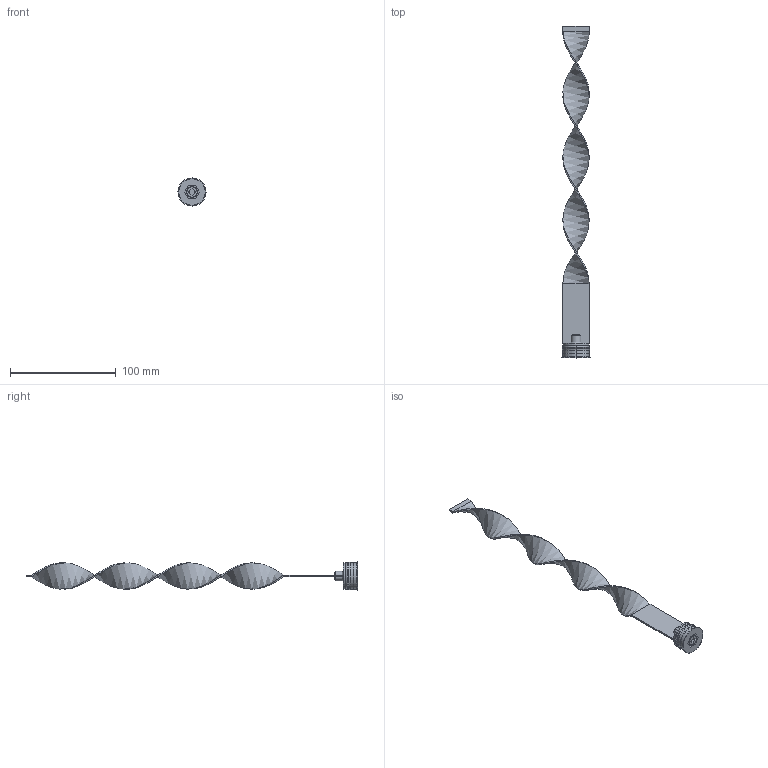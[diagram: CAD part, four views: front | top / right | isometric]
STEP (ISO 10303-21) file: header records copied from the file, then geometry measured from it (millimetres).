
FILE_DESCRIPTION (( 'STEP AP203' ), '1' );
FILE_NAME ('RLS-25Fx300.STEP', '2015-12-10T15:34:57', ( 'Balzi' ), ( '' ), 'SwSTEP 2.0', 'SolidWorks 2015', '' );
FILE_SCHEMA (( 'CONFIG_CONTROL_DESIGN' ));
Length unit declared in the file: millimetre
Products named in the file (1): RLS-25Fx300
Bounding box: 26.5 x 314 x 26.5 mm (x, y, z)
Volume: 18079.4 mm3; surface area: 19530.4 mm2
Topology: 1 solids, 1 shells, 83 faces, 193 edges, 117 vertices
Faces by surface type: plane 35, cone 19, cylinder 17, torus 8, bspline 4
Entity records: 4141 total; most frequent: CARTESIAN_POINT 2176, DIRECTION 406, ORIENTED_EDGE 386, EDGE_CURVE 193, AXIS2_PLACEMENT_3D 151, VERTEX_POINT 117, VECTOR 104, LINE 104
